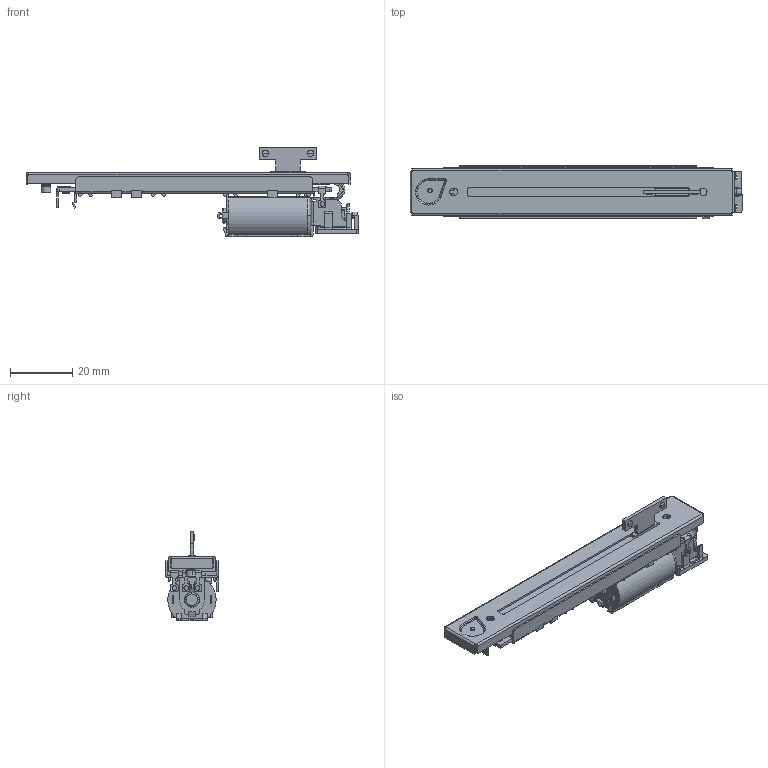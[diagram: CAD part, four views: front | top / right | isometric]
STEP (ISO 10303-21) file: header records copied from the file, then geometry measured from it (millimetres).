
FILE_DESCRIPTION (( 'STEP AP214' ), '1' );
FILE_NAME ('RS60N11M9A0E.STEP', '2013-01-19T02:47:09', ( '' ), ( '' ), 'SwSTEP 2.0', 'SolidWorks 2010', '' );
FILE_SCHEMA (( 'AUTOMOTIVE_DESIGN' ));
Length unit declared in the file: millimetre
Products named in the file (1): RS60N11M9A0E
Bounding box: 106.46 x 17.02 x 28.8 mm (x, y, z)
Volume: 14252.2 mm3; surface area: 11701.4 mm2
Topology: 1 solids, 1 shells, 1381 faces, 3761 edges, 2382 vertices
Faces by surface type: plane 908, cylinder 394, torus 55, bspline 16, cone 6, sphere 2
Entity records: 58613 total; most frequent: CARTESIAN_POINT 8003, ORIENTED_EDGE 7498, DIRECTION 7302, EDGE_CURVE 3749, LINE 2804, VECTOR 2804, VERTEX_POINT 2380, AXIS2_PLACEMENT_3D 2249
